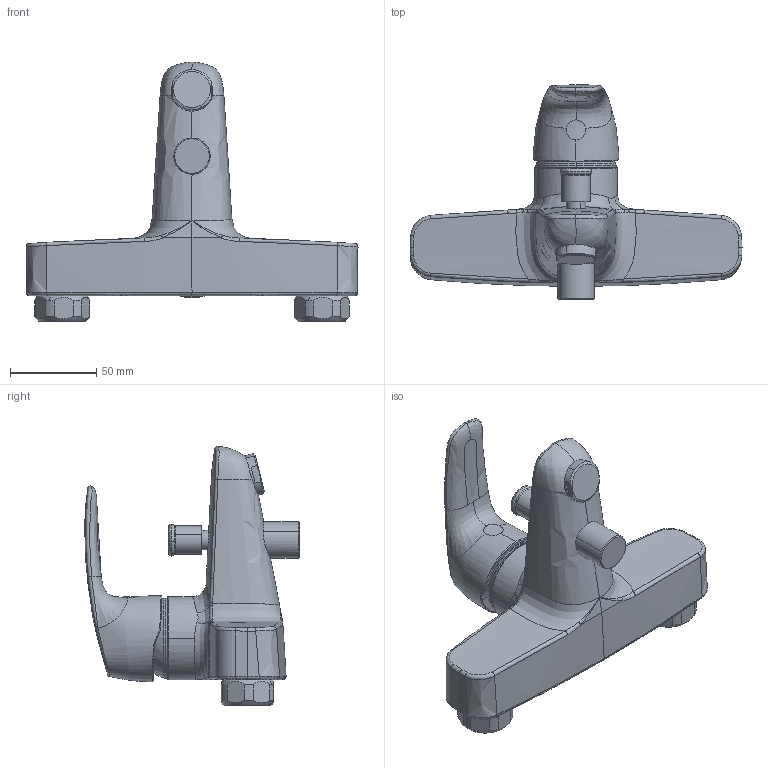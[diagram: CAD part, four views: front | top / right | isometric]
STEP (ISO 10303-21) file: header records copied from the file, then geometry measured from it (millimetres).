
FILE_DESCRIPTION (( 'STEP AP203' ), '1' );
FILE_NAME ('1040(2017).STEP', '2018-04-18T06:05:45', ( '' ), ( '' ), 'SwSTEP 2.0', 'SolidWorks 2016', '' );
FILE_SCHEMA (( 'CONFIG_CONTROL_DESIGN' ));
Length unit declared in the file: millimetre
Products named in the file (1): 1040(2017)
Bounding box: 192 x 124.03 x 149.93 mm (x, y, z)
Volume: 522283.7 mm3; surface area: 61161 mm2
Topology: 1 solids, 1 shells, 222 faces, 569 edges, 352 vertices
Faces by surface type: bspline 126, cylinder 49, plane 31, cone 14, sphere 2
Entity records: 35376 total; most frequent: CARTESIAN_POINT 30963, ORIENTED_EDGE 1132, DIRECTION 590, EDGE_CURVE 566, VERTEX_POINT 352, B_SPLINE_CURVE_WITH_KNOTS 312, AXIS2_PLACEMENT_3D 255, EDGE_LOOP 228
